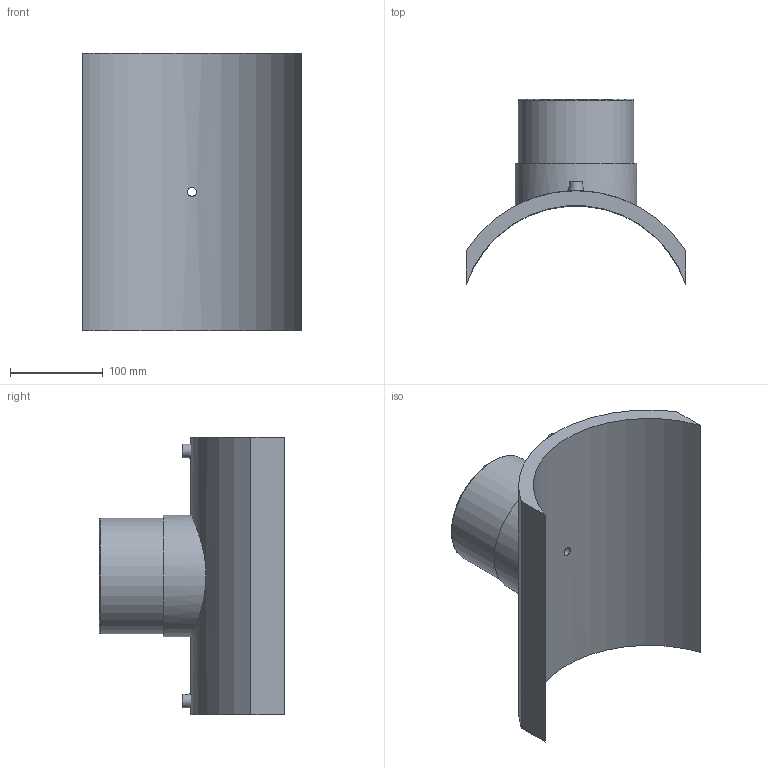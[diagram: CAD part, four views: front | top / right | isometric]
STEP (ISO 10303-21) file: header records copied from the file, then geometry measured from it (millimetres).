
FILE_DESCRIPTION(/* description */ ('PLASSON BRANCH SADDLE 250x125'),/* implementation_level */ '2;1');
FILE_NAME(/* name */ 'C:\Dropbox\KIMPROJECTS-Inventor 2019\99-16-3568-Processing\ElectroFusion Fittings\495803\stp\495803250125T.stp',/* time_stamp */ '2024-04-04T11:48:23+02:00',/* author */ ('KIM'),/* organization */ (''),/* preprocessor_version */ 'ST-DEVELOPER v17.2',/* originating_system */ 'Autodesk Inventor 2019',/* authorisation */ '');
FILE_SCHEMA (('AUTOMOTIVE_DESIGN { 1 0 10303 214 3 1 1 }'));
Length unit declared in the file: millimetre
Products named in the file (1): 495803250125T
Bounding box: 237 x 200.22 x 300 mm (x, y, z)
Volume: 1926695.7 mm3; surface area: 290272.4 mm2
Topology: 1 solids, 1 shells, 29 faces, 60 edges, 43 vertices
Faces by surface type: plane 13, cylinder 12, torus 2, cone 2
Full cylindrical faces by diameter (mm): 4 x2, 9.6 x1, 10 x2, 16 x1, 100 x1, 125 x1, 131.25 x1
Entity records: 1086 total; most frequent: CARTESIAN_POINT 400, DIRECTION 139, ORIENTED_EDGE 120, EDGE_CURVE 60, AXIS2_PLACEMENT_3D 60, VERTEX_POINT 43, EDGE_LOOP 41, CIRCLE 30
